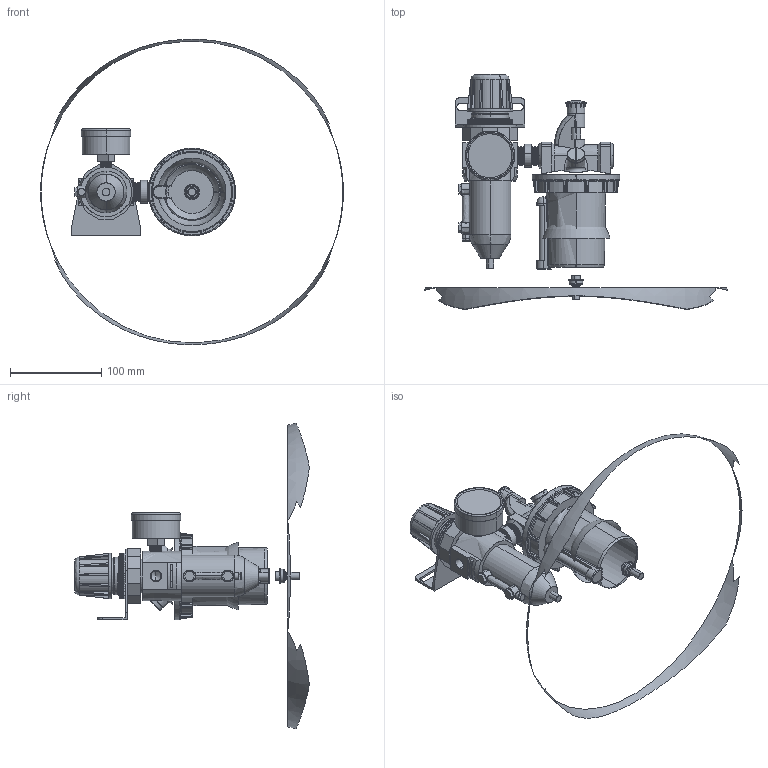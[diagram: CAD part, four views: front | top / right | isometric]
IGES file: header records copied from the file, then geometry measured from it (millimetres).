
Start section: SolidWorks IGES file using analytic representation for surfaces
Global section: file name: D:\Custom\3D繪製\FRL\BL系列\U658W-04#YB#.IGS; native system: SolidWorks 2014; preprocessor: SolidWorks 2014; author: Chieh_Lu; date: 160115.011610; units: millimetre
Bounding box: 331.4 x 256.89 x 334.08 mm (x, y, z)
Surface area: 158929.5 mm2 (no closed solid volume)
Topology: 0 solids, 0 shells, 1221 faces, 14002 edges, 13989 vertices
Faces by surface type: bspline 822, revolution 399
